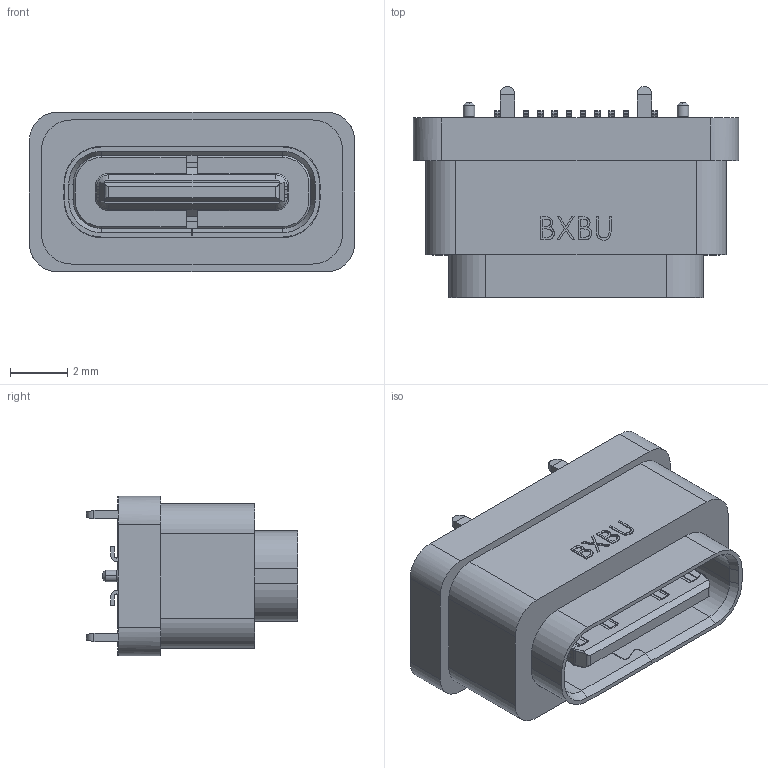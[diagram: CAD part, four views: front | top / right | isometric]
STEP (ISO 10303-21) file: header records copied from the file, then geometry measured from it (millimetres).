
FILE_DESCRIPTION (( 'STEP AP214' ), '1' );
FILE_NAME ('U5326-24PN6.55LF.STEP', '2026-07-30T06:05:45', ( '' ), ( '' ), 'SwSTEP 2.0', 'SolidWorks 2024', '' );
FILE_SCHEMA (( 'AUTOMOTIVE_DESIGN' ));
Length unit declared in the file: millimetre
Products named in the file (1): U5326-24PN6.55LF
Bounding box: 11.4 x 7.4 x 5.6 mm (x, y, z)
Volume: 256.5 mm3; surface area: 1127.7 mm2
Topology: 7 solids, 11 shells, 1924 faces, 5380 edges, 3511 vertices
Faces by surface type: plane 1426, cylinder 356, cone 55, bspline 50, torus 37
Entity records: 63545 total; most frequent: CARTESIAN_POINT 13799, ORIENTED_EDGE 10746, DIRECTION 9743, EDGE_CURVE 5373, VECTOR 4379, LINE 4379, VERTEX_POINT 3511, AXIS2_PLACEMENT_3D 2682
